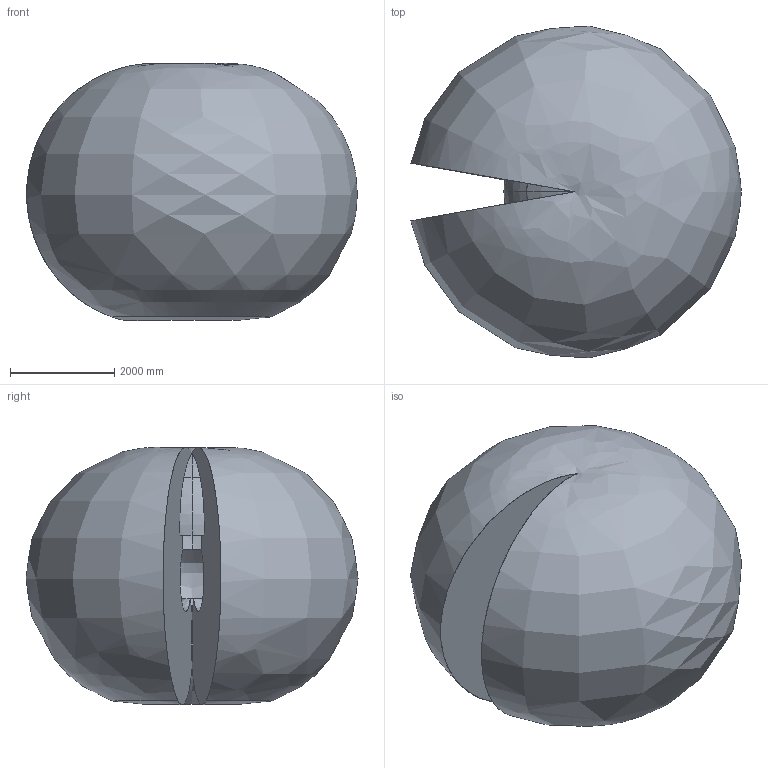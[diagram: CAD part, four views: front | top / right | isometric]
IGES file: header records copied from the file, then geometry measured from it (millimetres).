
Start section: SolidWorks IGES file using analytic representation for surfaces
Global section: file name: C:\Data\SAP_DOC\IRB6740_lightweight\6750S\IRB 6750S ASM\IRB6750S_350kg-320_OC_02_SW_J\IRB6750S_350kg-320_OC_02_IGES_J\IRB6750S_350kg-320_OC_00_Working-envelope.igs; native system: SolidWorks 2024; preprocessor: SolidWorks 2024; author: SEJAOLS6; date: 260507.074436; units: millimetre
Bounding box: 6348.53 x 6373.35 x 4940.43 mm (x, y, z)
Surface area: 150833761.5 mm2 (no closed solid volume)
Topology: 0 solids, 0 shells, 20 faces, 466 edges, 454 vertices
Faces by surface type: bspline 20
